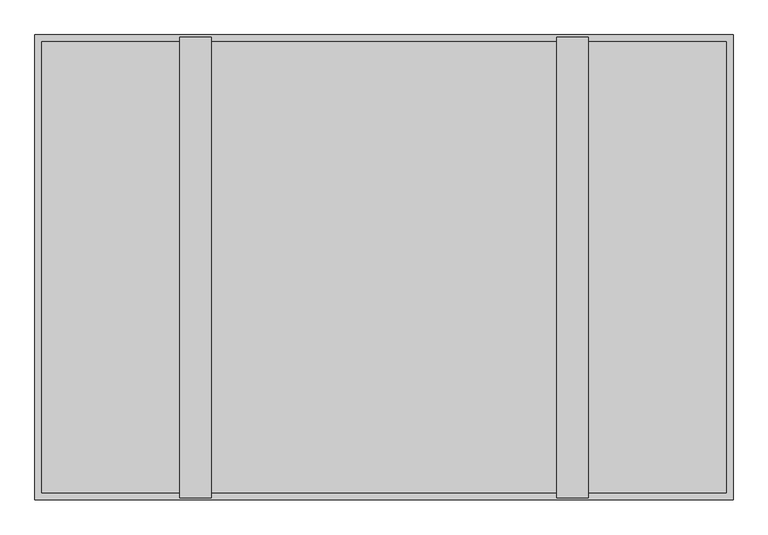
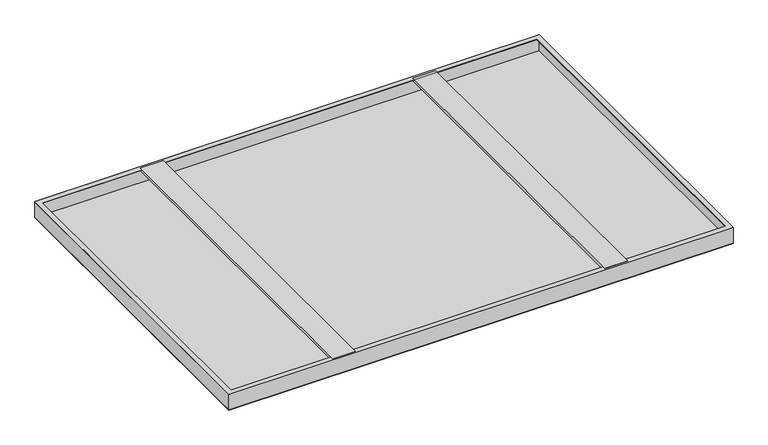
"""IFC4 building model written with IfcOpenShell, lengths in millimetres: proxy geometry, durlum_dur_SOLO_RHOMBOS_TYPE1 : durlum_dur_SOLO_RHOMBOS_TYPE1."""

from ifc_helpers import new_model, si_unit, frame, origin, origin_with_axes, place, context, project, spatial, polyline, outline, extrude, source, transform, mapped, element, save


def generic_models_f9f24abc(model_context):
    return source(origin(), model_context, "Body", "SweptSolid", [
        extrude(outline(polyline([(50.0, 371.1818895), (41.2547795, 371.1818895), (41.2547795, 373.7012938), (47.2031398, 373.7012938), (47.2031398, 436.2987062), (41.2547795, 436.2987062), (41.2547795, 438.8181105), (50.0, 438.8181105), (50.0, 371.1818895)])), frame((0.0, -495.0, 0.0), z_axis=(0.0, 1.0, 0.0), x_axis=(0.0, 0.0, 1.0)), (0.0, 0.0, 1.0), 990.0),
        extrude(outline(polyline([(50.0, -438.8181105), (41.2547795, -438.8181105), (41.2547795, -436.2987062), (47.2031398, -436.2987062), (47.2031398, -373.7012938), (41.2547795, -373.7012938), (41.2547795, -371.1818895), (50.0, -371.1818895), (50.0, -438.8181105)])), frame((0.0, -495.0, 0.0), z_axis=(0.0, 1.0, 0.0), x_axis=(0.0, 0.0, 1.0)), (0.0, 0.0, 1.0), 990.0),
        extrude(outline(polyline([(750.0, 500.0), (750.0, -500.0), (-750.0, -500.0), (-750.0, 500.0), (750.0, 500.0)]), holes=[polyline([(-735.0, 485.0), (-735.0, -485.0), (735.0, -485.0), (735.0, 485.0), (-735.0, 485.0)])]), frame((0.0, 0.0, 49.4), z_axis=(0.0, 0.0, 1.0), x_axis=(1.0, 0.0, 0.0)), (0.0, 0.0, 1.0), 0.6),
        extrude(outline(polyline([(750.0, 500.0), (750.0, -500.0), (-750.0, -500.0), (-750.0, 500.0), (750.0, 500.0)]), holes=[polyline([(749.4, 499.4), (-749.4, 499.4), (-749.4, -499.4), (749.4, -499.4), (749.4, 499.4)])]), frame((0.0, 0.0, 0.6), z_axis=(0.0, 0.0, 1.0), x_axis=(1.0, 0.0, 0.0)), (0.0, 0.0, 1.0), 49.4),
        extrude(outline(polyline([(750.0, 500.0), (750.0, -500.0), (-750.0, -500.0), (-750.0, 500.0), (750.0, 500.0)]), holes=[polyline([(749.4, 499.4), (-749.4, 499.4), (-749.4, -499.4), (749.4, -499.4), (749.4, 499.4)])]), origin_with_axes(), (0.0, 0.0, 1.0), 0.6),
        extrude(outline(polyline([(749.4, 499.4), (749.4, -499.4), (-749.4, -499.4), (-749.4, 499.4), (749.4, 499.4)])), origin_with_axes(), (0.0, 0.0, 1.0), 0.6),
    ])


if __name__ == "__main__":
    model = new_model("IFC4")
    model_context = context("Model", 3, world=origin())
    ifc_project = project(units=[si_unit("LENGTHUNIT", "METRE", prefix="MILLI")], contexts=[model_context])
    site = spatial("IfcSite", under=ifc_project)
    building = spatial("IfcBuilding", under=site)
    placement = place(None, origin())
    generic_models_shape = generic_models_f9f24abc(model_context)
    element("IfcBuildingElementProxy", 1, Name="durlum_dur_SOLO_RHOMBOS_TYPE1 : durlum_dur_SOLO_RHOMBOS_TYPE1", ObjectType="durlum_dur_SOLO_RHOMBOS_TYPE1 : durlum_dur_SOLO_RHOMBOS_TYPE1", at=placement, inside=building, context=model_context, shape_type="MappedRepresentation", body=[
        mapped(generic_models_shape, transform((0.0, 0.0, 0.0), x_axis=(1.0, 0.0, 0.0), y_axis=(0.0, 1.0, 0.0), z_axis=(0.0, 0.0, 1.0))),
    ])
    save(model, "model.ifc")
